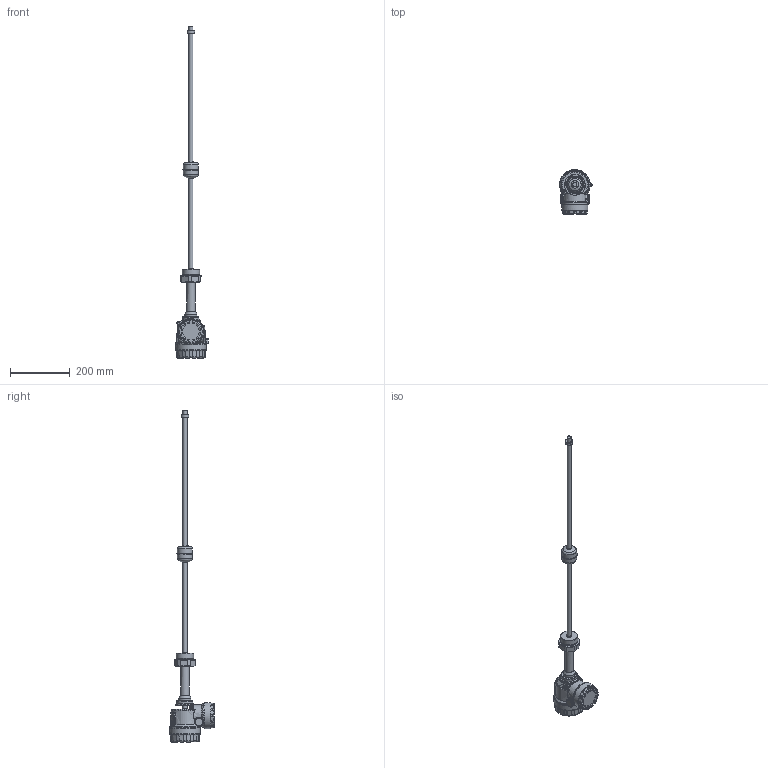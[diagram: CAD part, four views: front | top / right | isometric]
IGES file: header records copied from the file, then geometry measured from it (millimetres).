
Global section: file name: M_RN_Aszer_2col; native system: Autodesk Inventor 2015; preprocessor: unknown; author: aantal; date: 20150529.141619; units: millimetre
Bounding box: 109.65 x 149.65 x 1111.09 mm (x, y, z)
Volume: 1467211.6 mm3; surface area: 231631.4 mm2
Topology: 16 solids, 23 shells, 1660 faces, 3997 edges, 2344 vertices
Faces by surface type: bspline 1660
